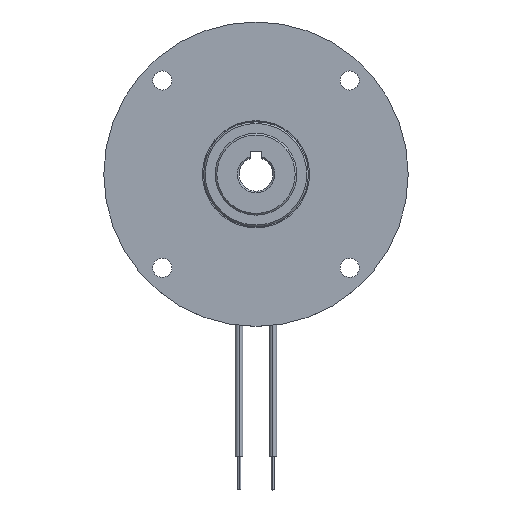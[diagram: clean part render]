
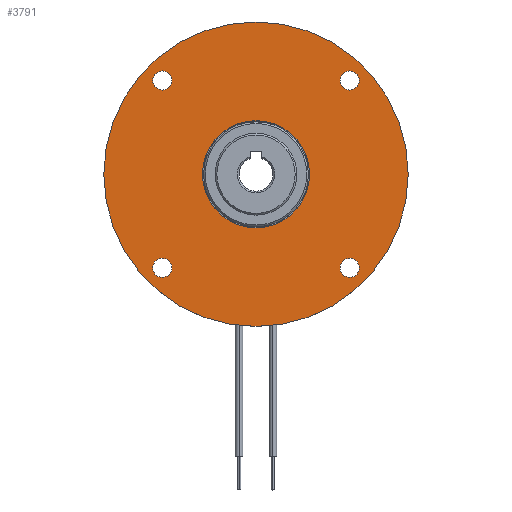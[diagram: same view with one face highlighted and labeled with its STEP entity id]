
A CAD part, top view. The second image highlights one B-rep face of the part: STEP entity #3791.
In plain terms, the highlighted planar face has unit normal (0, 0, 1).
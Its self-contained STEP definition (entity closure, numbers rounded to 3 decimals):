
#14 = DIRECTION ( 'NONE',  ( 0., 0., -1. ) ) ;
#32 = DIRECTION ( 'NONE',  ( -1., 0., 0. ) ) ;
#56 = EDGE_CURVE ( 'NONE', #834, #2798, #494, .T. ) ;
#59 = FACE_BOUND ( 'NONE', #4833, .T. ) ;
#94 = DIRECTION ( 'NONE',  ( -1., 0., 0. ) ) ;
#138 = DIRECTION ( 'NONE',  ( 0., 0., -1. ) ) ;
#167 = EDGE_CURVE ( 'NONE', #6710, #5336, #2746, .T. ) ;
#408 = AXIS2_PLACEMENT_3D ( 'NONE', #2642, #4768, #1902 ) ;
#494 = CIRCLE ( 'NONE', #5352, 1.7 ) ;
#630 = EDGE_CURVE ( 'NONE', #2798, #834, #657, .T. ) ;
#657 = CIRCLE ( 'NONE', #1105, 1.7 ) ;
#834 = VERTEX_POINT ( 'NONE', #3021 ) ;
#841 = CARTESIAN_POINT ( 'NONE',  ( 18.317, -16.617, 0. ) ) ;
#897 = EDGE_LOOP ( 'NONE', ( #2783, #4997 ) ) ;
#953 = AXIS2_PLACEMENT_3D ( 'NONE', #2596, #3727, #3633 ) ;
#962 = VERTEX_POINT ( 'NONE', #3686 ) ;
#1012 = VERTEX_POINT ( 'NONE', #2465 ) ;
#1105 = AXIS2_PLACEMENT_3D ( 'NONE', #5592, #1791, #1246 ) ;
#1153 = DIRECTION ( 'NONE',  ( 0., 0., -1. ) ) ;
#1161 = CARTESIAN_POINT ( 'NONE',  ( 0., 27., 0. ) ) ;
#1246 = DIRECTION ( 'NONE',  ( -1., 0., 0. ) ) ;
#1258 = EDGE_CURVE ( 'NONE', #1012, #6581, #4327, .T. ) ;
#1267 = FACE_BOUND ( 'NONE', #3193, .T. ) ;
#1284 = EDGE_LOOP ( 'NONE', ( #6119, #3496 ) ) ;
#1285 = VERTEX_POINT ( 'NONE', #3750 ) ;
#1398 = EDGE_CURVE ( 'NONE', #962, #1285, #5461, .T. ) ;
#1678 = EDGE_CURVE ( 'NONE', #5293, #3707, #1743, .T. ) ;
#1690 = CARTESIAN_POINT ( 'NONE',  ( 0., 0., 0. ) ) ;
#1715 = ORIENTED_EDGE ( 'NONE', *, *, #4786, .T. ) ;
#1743 = CIRCLE ( 'NONE', #5786, 1.7 ) ;
#1752 = DIRECTION ( 'NONE',  ( 0., 0., -1. ) ) ;
#1791 = DIRECTION ( 'NONE',  ( 0., 0., -1. ) ) ;
#1823 = DIRECTION ( 'NONE',  ( -1., 0., 0. ) ) ;
#1852 = AXIS2_PLACEMENT_3D ( 'NONE', #4892, #2245, #32 ) ;
#1902 = DIRECTION ( 'NONE',  ( -1., 0., 0. ) ) ;
#1937 = CARTESIAN_POINT ( 'NONE',  ( -14.917, -16.617, 0. ) ) ;
#2134 = CIRCLE ( 'NONE', #6063, 27. ) ;
#2185 = VERTEX_POINT ( 'NONE', #5929 ) ;
#2190 = DIRECTION ( 'NONE',  ( 0., 0., -1. ) ) ;
#2245 = DIRECTION ( 'NONE',  ( 0., 0., -1. ) ) ;
#2267 = FACE_BOUND ( 'NONE', #3214, .T. ) ;
#2278 = CARTESIAN_POINT ( 'NONE',  ( 0., 0., 0. ) ) ;
#2283 = EDGE_CURVE ( 'NONE', #2185, #5063, #3503, .T. ) ;
#2378 = AXIS2_PLACEMENT_3D ( 'NONE', #6079, #4612, #4643 ) ;
#2465 = CARTESIAN_POINT ( 'NONE',  ( 14.917, -16.617, 0. ) ) ;
#2499 = CARTESIAN_POINT ( 'NONE',  ( 14.917, 16.617, 0. ) ) ;
#2510 = CIRCLE ( 'NONE', #3073, 1.7 ) ;
#2596 = CARTESIAN_POINT ( 'NONE',  ( -16.617, -16.617, 0. ) ) ;
#2608 = EDGE_CURVE ( 'NONE', #6581, #1012, #3620, .T. ) ;
#2635 = DIRECTION ( 'NONE',  ( -1., 0., 0. ) ) ;
#2642 = CARTESIAN_POINT ( 'NONE',  ( -16.617, -16.617, 0. ) ) ;
#2706 = ORIENTED_EDGE ( 'NONE', *, *, #6898, .F. ) ;
#2708 = ORIENTED_EDGE ( 'NONE', *, *, #1678, .T. ) ;
#2746 = CIRCLE ( 'NONE', #953, 1.7 ) ;
#2783 = ORIENTED_EDGE ( 'NONE', *, *, #630, .T. ) ;
#2798 = VERTEX_POINT ( 'NONE', #6304 ) ;
#3021 = CARTESIAN_POINT ( 'NONE',  ( -14.917, 16.617, 0. ) ) ;
#3073 = AXIS2_PLACEMENT_3D ( 'NONE', #5920, #14, #2635 ) ;
#3193 = EDGE_LOOP ( 'NONE', ( #3948, #2708 ) ) ;
#3208 = CIRCLE ( 'NONE', #6601, 9.5 ) ;
#3214 = EDGE_LOOP ( 'NONE', ( #1715, #4197 ) ) ;
#3312 = DIRECTION ( 'NONE',  ( -1., 0., 0. ) ) ;
#3348 = EDGE_CURVE ( 'NONE', #3707, #5293, #2510, .T. ) ;
#3410 = FACE_BOUND ( 'NONE', #1284, .T. ) ;
#3458 = CIRCLE ( 'NONE', #408, 1.7 ) ;
#3478 = EDGE_LOOP ( 'NONE', ( #4808, #2706 ) ) ;
#3496 = ORIENTED_EDGE ( 'NONE', *, *, #2608, .T. ) ;
#3503 = CIRCLE ( 'NONE', #2378, 27. ) ;
#3620 = CIRCLE ( 'NONE', #4535, 1.7 ) ;
#3633 = DIRECTION ( 'NONE',  ( -1., 0., 0. ) ) ;
#3686 = CARTESIAN_POINT ( 'NONE',  ( 9.5, 0., 0. ) ) ;
#3707 = VERTEX_POINT ( 'NONE', #2499 ) ;
#3727 = DIRECTION ( 'NONE',  ( 0., 0., -1. ) ) ;
#3750 = CARTESIAN_POINT ( 'NONE',  ( -9.5, 0., 0. ) ) ;
#3791 = ADVANCED_FACE ( 'NONE', ( #1267, #3410, #59, #5995, #5059, #2267 ), #4424, .F. ) ;
#3948 = ORIENTED_EDGE ( 'NONE', *, *, #3348, .T. ) ;
#4040 = CARTESIAN_POINT ( 'NONE',  ( 0., 0., 0. ) ) ;
#4179 = ORIENTED_EDGE ( 'NONE', *, *, #5298, .T. ) ;
#4197 = ORIENTED_EDGE ( 'NONE', *, *, #1398, .T. ) ;
#4272 = DIRECTION ( 'NONE',  ( -1., 0., 0. ) ) ;
#4327 = CIRCLE ( 'NONE', #1852, 1.7 ) ;
#4402 = CARTESIAN_POINT ( 'NONE',  ( 27., 0., 0. ) ) ;
#4424 = PLANE ( 'NONE',  #5340 ) ;
#4535 = AXIS2_PLACEMENT_3D ( 'NONE', #4908, #4978, #6097 ) ;
#4599 = CARTESIAN_POINT ( 'NONE',  ( -16.617, 16.617, 0. ) ) ;
#4609 = DIRECTION ( 'NONE',  ( -1., 0., 0. ) ) ;
#4612 = DIRECTION ( 'NONE',  ( 0., 0., -1. ) ) ;
#4643 = DIRECTION ( 'NONE',  ( -1., 0., 0. ) ) ;
#4768 = DIRECTION ( 'NONE',  ( 0., 0., -1. ) ) ;
#4786 = EDGE_CURVE ( 'NONE', #1285, #962, #3208, .T. ) ;
#4808 = ORIENTED_EDGE ( 'NONE', *, *, #2283, .F. ) ;
#4833 = EDGE_LOOP ( 'NONE', ( #6008, #4179 ) ) ;
#4892 = CARTESIAN_POINT ( 'NONE',  ( 16.617, -16.617, 0. ) ) ;
#4908 = CARTESIAN_POINT ( 'NONE',  ( 16.617, -16.617, 0. ) ) ;
#4978 = DIRECTION ( 'NONE',  ( 0., 0., -1. ) ) ;
#4997 = ORIENTED_EDGE ( 'NONE', *, *, #56, .T. ) ;
#5059 = FACE_OUTER_BOUND ( 'NONE', #3478, .T. ) ;
#5063 = VERTEX_POINT ( 'NONE', #4402 ) ;
#5293 = VERTEX_POINT ( 'NONE', #6961 ) ;
#5298 = EDGE_CURVE ( 'NONE', #5336, #6710, #3458, .T. ) ;
#5336 = VERTEX_POINT ( 'NONE', #1937 ) ;
#5340 = AXIS2_PLACEMENT_3D ( 'NONE', #1161, #138, #3312 ) ;
#5352 = AXIS2_PLACEMENT_3D ( 'NONE', #4599, #6102, #5577 ) ;
#5461 = CIRCLE ( 'NONE', #6708, 9.5 ) ;
#5572 = CARTESIAN_POINT ( 'NONE',  ( 16.617, 16.617, 0. ) ) ;
#5577 = DIRECTION ( 'NONE',  ( -1., 0., 0. ) ) ;
#5592 = CARTESIAN_POINT ( 'NONE',  ( -16.617, 16.617, 0. ) ) ;
#5786 = AXIS2_PLACEMENT_3D ( 'NONE', #5572, #1153, #94 ) ;
#5920 = CARTESIAN_POINT ( 'NONE',  ( 16.617, 16.617, 0. ) ) ;
#5929 = CARTESIAN_POINT ( 'NONE',  ( -27., 0., 0. ) ) ;
#5995 = FACE_BOUND ( 'NONE', #897, .T. ) ;
#6008 = ORIENTED_EDGE ( 'NONE', *, *, #167, .T. ) ;
#6063 = AXIS2_PLACEMENT_3D ( 'NONE', #2278, #1752, #1823 ) ;
#6079 = CARTESIAN_POINT ( 'NONE',  ( 0., 0., 0. ) ) ;
#6097 = DIRECTION ( 'NONE',  ( -1., 0., 0. ) ) ;
#6102 = DIRECTION ( 'NONE',  ( 0., 0., -1. ) ) ;
#6119 = ORIENTED_EDGE ( 'NONE', *, *, #1258, .T. ) ;
#6187 = DIRECTION ( 'NONE',  ( 0., 0., -1. ) ) ;
#6304 = CARTESIAN_POINT ( 'NONE',  ( -18.317, 16.617, 0. ) ) ;
#6581 = VERTEX_POINT ( 'NONE', #841 ) ;
#6601 = AXIS2_PLACEMENT_3D ( 'NONE', #1690, #2190, #4272 ) ;
#6708 = AXIS2_PLACEMENT_3D ( 'NONE', #4040, #6187, #4609 ) ;
#6710 = VERTEX_POINT ( 'NONE', #6882 ) ;
#6882 = CARTESIAN_POINT ( 'NONE',  ( -18.317, -16.617, 0. ) ) ;
#6898 = EDGE_CURVE ( 'NONE', #5063, #2185, #2134, .T. ) ;
#6961 = CARTESIAN_POINT ( 'NONE',  ( 18.317, 16.617, 0. ) ) ;
